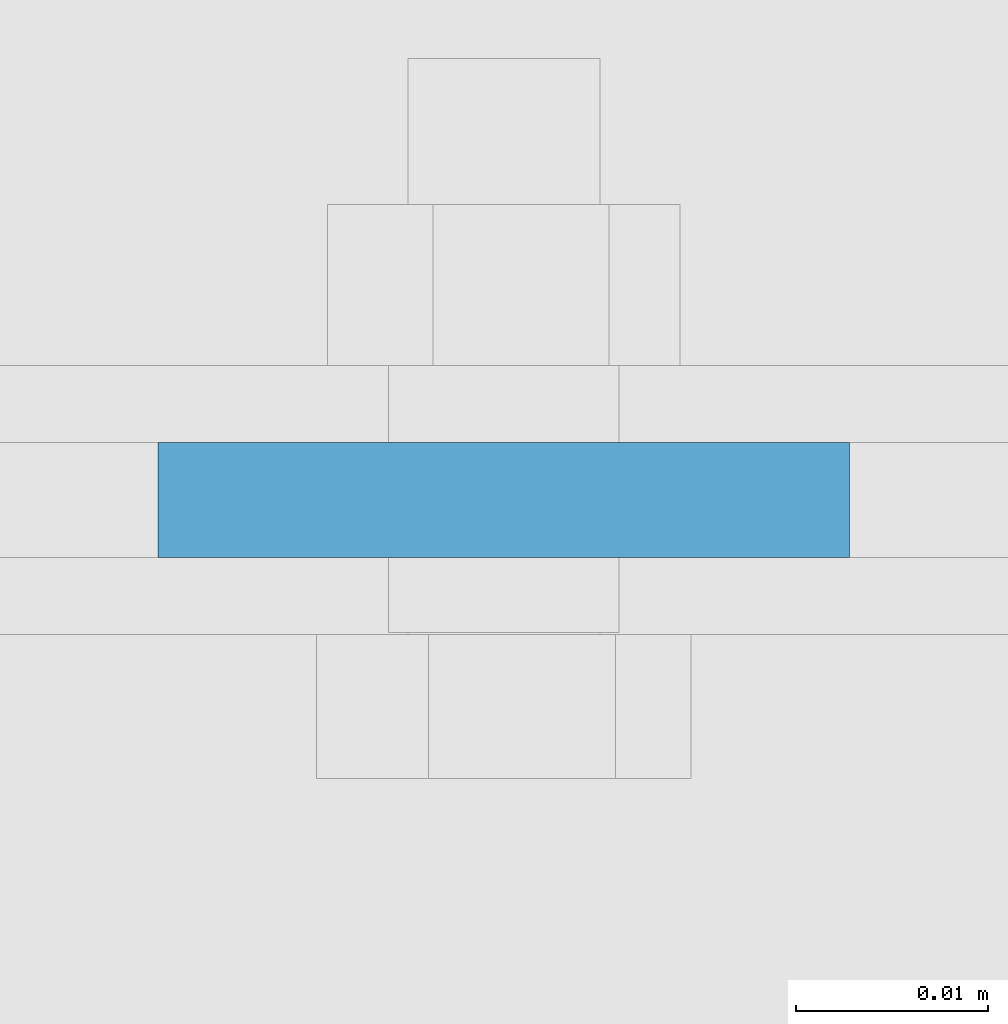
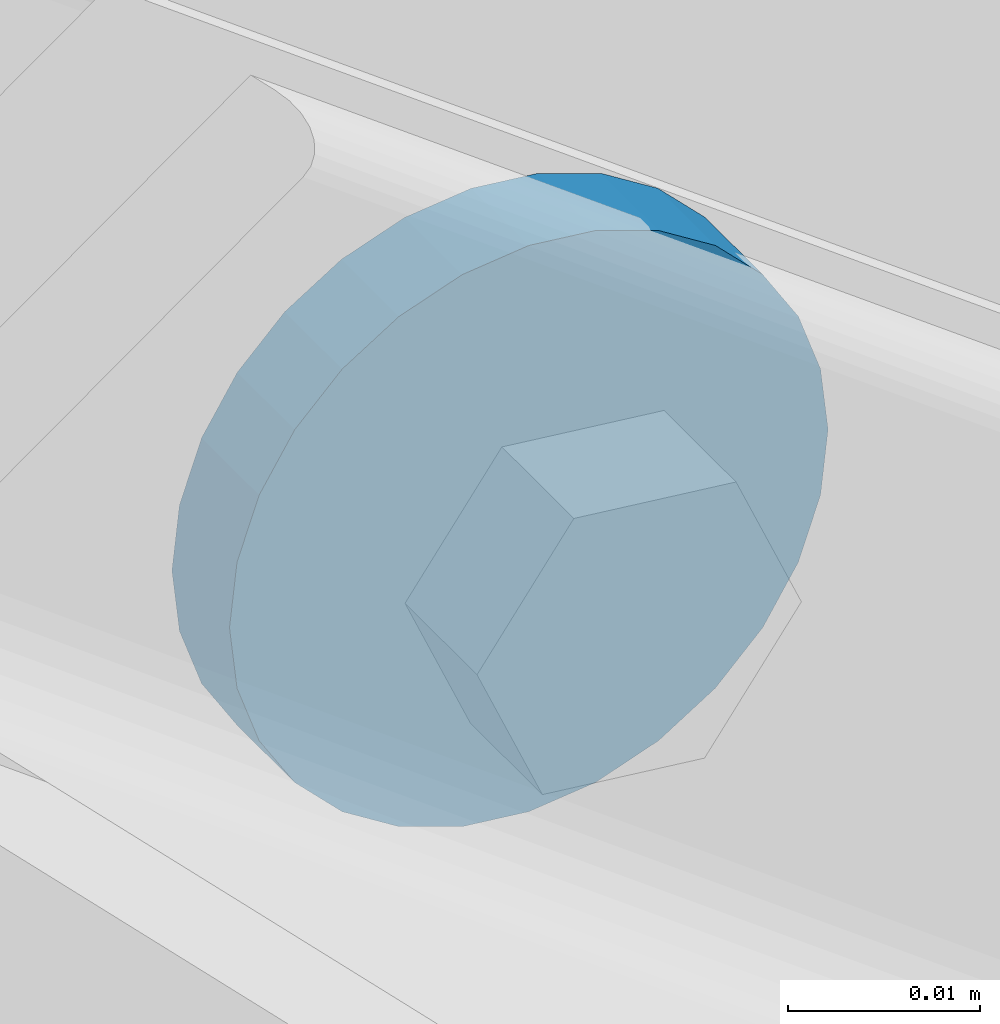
# One storey, part 128 of 362: 1 beam, 1 element without a shape of its own.
"""IFC2X3 building model written with IfcOpenShell, lengths in millimetres."""

import ifcopenshell
import ifcopenshell.guid

model = None  # the IFC model being written
_history = None  # IfcOwnerHistory: only IFC2X3 demands one
_inside = {}  # id of a spatial element -> (the spatial element, [elements in it])
_under = {}  # id of a project, library or spatial element -> (it, [spatial elements below it])
_declared = {}  # id of a project -> (the project, [libraries it declares])
_typed = {}  # id of a type object -> (the type object, [elements of that type])
_made_of = {}  # id of a material, layer set ... -> (it, [elements and type objects made of it])


def new_model(schema):
    """Start an empty IFC model of exactly this schema.

    Asked for "IFC4X3", IfcOpenShell would pick the latest addendum, in which some entities
    have other attributes; the version numbers below select the first issue.
    IFC2X3 requires an IfcOwnerHistory on every rooted entity: one is made here for all.
    """
    global model, _history
    if schema == "IFC4X3":
        model = ifcopenshell.file(schema_version=(4, 3, 0, 0))
    else:
        model = ifcopenshell.file(schema=schema)
    _inside.clear()
    _under.clear()
    _declared.clear()
    _typed.clear()
    _made_of.clear()
    _history = None
    if model.schema == "IFC2X3":
        org = make("IfcOrganization", Name="unknown")
        user = make(
            "IfcPersonAndOrganization",
            ThePerson=make("IfcPerson", FamilyName="unknown"),
            TheOrganization=org,
        )
        app = make(
            "IfcApplication",
            ApplicationDeveloper=org,
            Version="unknown",
            ApplicationFullName="unknown",
            ApplicationIdentifier="unknown",
        )
        _history = make(
            "IfcOwnerHistory",
            OwningUser=user,
            OwningApplication=app,
            ChangeAction="ADDED",
            CreationDate=0,
        )
    return model


def make(cls, **values):
    """One entity of the class cls with the attributes given. An attribute that is None is left unset."""
    return model.create_entity(
        cls, **{name: value for name, value in values.items() if value is not None}
    )


def rooted(cls, **values):
    """An entity with a GlobalId (a new one), such as an element, a storey or a relation."""
    return make(cls, GlobalId=ifcopenshell.guid.new(), OwnerHistory=_history, **values)


def si_unit(unit_type, name, prefix=None):
    """IfcSIUnit, for example si_unit("LENGTHUNIT", "METRE", prefix="MILLI")."""
    return make("IfcSIUnit", UnitType=unit_type, Prefix=prefix, Name=name)


def assignment(units):
    """IfcUnitAssignment: the units of a project."""
    return None if units is None else make("IfcUnitAssignment", Units=units)


def point(xyz):
    """IfcCartesianPoint."""
    return None if xyz is None else make("IfcCartesianPoint", Coordinates=xyz)


def direction(xyz):
    """IfcDirection."""
    return None if xyz is None else make("IfcDirection", DirectionRatios=xyz)


def frame(location, z_axis=None, x_axis=None):
    """IfcAxis2Placement3D, a coordinate frame: its origin and axes. An axis left out is left unset."""
    return make(
        "IfcAxis2Placement3D",
        Location=point(location),
        Axis=direction(z_axis),
        RefDirection=direction(x_axis),
    )


def frame_2d(location, x_axis=None):
    """IfcAxis2Placement2D, a coordinate frame in the plane: its origin and x axis."""
    return make(
        "IfcAxis2Placement2D", Location=point(location), RefDirection=direction(x_axis)
    )


def origin_with_axes():
    """The frame at (0, 0, 0) with the z axis (0, 0, 1) and the x axis (1, 0, 0) written out."""
    return frame((0.0, 0.0, 0.0), z_axis=(0.0, 0.0, 1.0), x_axis=(1.0, 0.0, 0.0))


def place(relative_to, where):
    """IfcLocalPlacement: puts the frame where relative to a parent placement (None: the world)."""
    return make(
        "IfcLocalPlacement", PlacementRelTo=relative_to, RelativePlacement=where
    )


def context(
    kind, dimensions, precision=None, world=None, true_north=None, identifier=None
):
    """IfcGeometricRepresentationContext, for example the 3D "Model" context."""
    return make(
        "IfcGeometricRepresentationContext",
        ContextIdentifier=identifier,
        ContextType=kind,
        CoordinateSpaceDimension=dimensions,
        Precision=precision,
        WorldCoordinateSystem=world,
        TrueNorth=true_north,
    )


def subcontext(parent, identifier, kind, view, scale=None):
    """IfcGeometricRepresentationSubContext, for example "Body" below "Model"."""
    return make(
        "IfcGeometricRepresentationSubContext",
        ContextIdentifier=identifier,
        ContextType=kind,
        ParentContext=parent,
        TargetScale=scale,
        TargetView=view,
    )


def project(units=None, contexts=None):
    """IfcProject with its units and contexts."""
    return rooted(
        "IfcProject",
        Name="project",
        RepresentationContexts=contexts,
        UnitsInContext=assignment(units),
    )


def spatial(cls, under=None, at=None, **own):
    """A site, building, storey or space (cls), placed at a placement, below another one or the project."""
    s = rooted(cls, ObjectPlacement=at, **own)
    if under is not None:
        _under.setdefault(under.id(), (under, []))[1].append(s)
    return s


def circle_curve(where, radius):
    """IfcCircle in the frame where."""
    return make("IfcCircle", Position=where, Radius=radius)


def parameter(value):
    """IfcParameterValue: where a trimmed curve begins or ends, as a parameter of its basis curve."""
    return model.create_entity("IfcParameterValue", value)


def trimmed(basis, trim1, trim2, sense, master):
    """IfcTrimmedCurve: the piece of a basis curve between two trims."""
    return make(
        "IfcTrimmedCurve",
        BasisCurve=basis,
        Trim1=trim1,
        Trim2=trim2,
        SenseAgreement=sense,
        MasterRepresentation=master,
    )


def segment(curve, same_sense, transition):
    """IfcCompositeCurveSegment."""
    return make(
        "IfcCompositeCurveSegment",
        Transition=transition,
        SameSense=same_sense,
        ParentCurve=curve,
    )


def composite_curve(segments, self_intersect=None):
    """IfcCompositeCurve: segments joined end to end."""
    return make("IfcCompositeCurve", Segments=segments, SelfIntersect=self_intersect)


def outline(outer, holes=None, kind="AREA"):
    """IfcArbitraryClosedProfileDef: a profile drawn as a closed curve; with holes, ...WithVoids."""
    if holes is None:
        return make("IfcArbitraryClosedProfileDef", ProfileType=kind, OuterCurve=outer)
    return make(
        "IfcArbitraryProfileDefWithVoids",
        ProfileType=kind,
        OuterCurve=outer,
        InnerCurves=holes,
    )


def extrude(swept, where, along, depth):
    """IfcExtrudedAreaSolid: the profile swept, set in the frame where, extruded along a direction by depth."""
    return make(
        "IfcExtrudedAreaSolid",
        SweptArea=swept,
        Position=where,
        ExtrudedDirection=direction(along),
        Depth=depth,
    )


def shape(context_of_items, identifier, shape_type, items):
    """IfcShapeRepresentation: the items that make up one representation, for example the "Body"."""
    return make(
        "IfcShapeRepresentation",
        ContextOfItems=context_of_items,
        RepresentationIdentifier=identifier,
        RepresentationType=shape_type,
        Items=items,
    )


def material(Name=None, Category=None):
    """IfcMaterial."""
    return make("IfcMaterial", Name=Name, Category=Category)


def made_of(thing, what):
    """Note that an element or type object is made of a material, layer set ...; save() writes the relation."""
    if what is not None:
        _made_of.setdefault(what.id(), (what, []))[1].append(thing)
    return thing


def type_object(cls, material=None, **own):
    """A type object (cls), such as IfcWallType, which elements share."""
    return made_of(rooted(cls, **own), material)


def element(
    cls,
    number,
    at=None,
    inside=None,
    cuts=None,
    type_object=None,
    material=None,
    context=None,
    identifier="Body",
    shape_type=None,
    held_by="IfcProductDefinitionShape",
    body=None,
    shapes=None,
    **own,
):
    """One element of the class cls, such as IfcWall. Its Tag is "e" and its number.

    at: its placement. inside: the storey or other place that contains it. cuts: it is an
    opening in that element (IfcRelVoidsElement). A single representation is given by context,
    identifier, shape_type and body (its items); several are given by shapes. held_by: the class
    of the entity that holds the representations. save() writes the other relations.
    """
    e = rooted(cls, Tag="e%d" % number, ObjectPlacement=at, **own)
    if body is not None:
        shapes = [shape(context, identifier, shape_type, body)]
    if shapes is not None:
        e.Representation = make(held_by, Representations=shapes)
    if inside is not None:
        _inside.setdefault(inside.id(), (inside, []))[1].append(e)
    if cuts is not None:
        rooted(
            "IfcRelVoidsElement", RelatingBuildingElement=cuts, RelatedOpeningElement=e
        )
    if type_object is not None:
        _typed.setdefault(type_object.id(), (type_object, []))[1].append(e)
    return made_of(e, material)


def aggregate(whole, parts):
    """IfcRelAggregates: a whole, such as a stair, and the parts it consists of."""
    return rooted("IfcRelAggregates", RelatingObject=whole, RelatedObjects=parts)


def save(model, path):
    """Write the relations noted so far, then the file.

    IfcRelAggregates (storeys below a building ...), IfcRelContainedInSpatialStructure (elements
    in a storey), IfcRelDefinesByType, IfcRelAssociatesMaterial and IfcRelDeclares: one each for
    every whole, place, type object, material and project.
    """
    for whole, parts in _under.values():
        aggregate(whole, parts)
    for where, things in _inside.values():
        rooted(
            "IfcRelContainedInSpatialStructure",
            RelatedElements=things,
            RelatingStructure=where,
        )
    for kind, things in _typed.values():
        rooted("IfcRelDefinesByType", RelatedObjects=things, RelatingType=kind)
    for what, things in _made_of.values():
        rooted("IfcRelAssociatesMaterial", RelatedObjects=things, RelatingMaterial=what)
    for by, libraries in _declared.values():
        rooted("IfcRelDeclares", RelatingContext=by, RelatedDefinitions=libraries)
    model.write(path)


model = new_model("IFC2X3")

# Units and contexts
model_context = context("Model", 3, precision=1e-05, world=origin_with_axes())
body_context = subcontext(model_context, "Body", "Model", "MODEL_VIEW")
ifc_project = project(units=[si_unit("LENGTHUNIT", "METRE", prefix="MILLI"), si_unit("AREAUNIT", "SQUARE_METRE"), si_unit("VOLUMEUNIT", "CUBIC_METRE"), si_unit("MASSUNIT", "GRAM", prefix="KILO"), si_unit("TIMEUNIT", "SECOND"), si_unit("PLANEANGLEUNIT", "RADIAN"), si_unit("SOLIDANGLEUNIT", "STERADIAN"), si_unit("THERMODYNAMICTEMPERATUREUNIT", "DEGREE_CELSIUS"), si_unit("LUMINOUSINTENSITYUNIT", "LUMEN")], contexts=[model_context])

# Site, building, storey
site_placement = place(None, origin_with_axes())
site = spatial("IfcSite", under=ifc_project, at=site_placement, Name="Undefined", CompositionType="ELEMENT")
building_placement = place(site_placement, origin_with_axes())
building = spatial("IfcBuilding", under=site, at=building_placement, Name="Undefined", CompositionType="ELEMENT")
storey_placement = place(building_placement, origin_with_axes())
storey = spatial("IfcBuildingStorey", under=building, at=storey_placement, Name="Undefined", CompositionType="ELEMENT", Elevation=0.0)

# Assembly, beam
assembly_placement = place(storey_placement, origin_with_axes())
assembly = element("IfcElementAssembly", 1, at=assembly_placement, inside=storey, AssemblyPlace="NOTDEFINED", PredefinedType="NOTDEFINED")
ifc_material = material(Name="Undefined/S235-E24")
beam_type = type_object("IfcBeamType", Name="TOLE6*36", PredefinedType="NOTDEFINED")
beam_placement = place(assembly_placement, frame((39330.1399718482, 7600.00038406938, 7412.76810183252), z_axis=(0.0, -1.0, 0.0), x_axis=(1.0, 0.0, 0.0)))
beam = element("IfcBeam", 2, at=beam_placement, type_object=beam_type, material=ifc_material, Name="PLAQUETTE", ObjectType="TOLE6*36", context=body_context, shape_type="SweptSolid", body=[
    extrude(outline(composite_curve([segment(trimmed(circle_curve(frame_2d((18.0, 18.0), x_axis=(-1.0, 0.0)), 18.0), [parameter(0.0)], [parameter(1.5707963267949)], True, "PARAMETER"), True, "CONTINUOUS"), segment(trimmed(circle_curve(frame_2d((18.0, 18.0), x_axis=(0.0, -1.0)), 18.0), [parameter(0.0)], [parameter(1.5707963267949)], True, "PARAMETER"), True, "CONTINUOUS"), segment(trimmed(circle_curve(frame_2d((18.0, 18.0), x_axis=(1.0, 0.0)), 18.0), [parameter(0.0)], [parameter(1.5707963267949)], True, "PARAMETER"), True, "CONTINUOUS"), segment(trimmed(circle_curve(frame_2d((18.0, 18.0), x_axis=(0.0, 1.0)), 18.0), [parameter(0.0)], [parameter(1.5707963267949)], True, "PARAMETER"), True, "CONTINUOUS")], self_intersect=True)), frame((0.0, 0.0, -3.0), z_axis=(0.0, 0.0, 1.0), x_axis=(1.0, 0.0, 0.0)), (0.0, 0.0, 1.0), 6.0),
])
aggregate(assembly, [beam])

save(model, "model.ifc")
